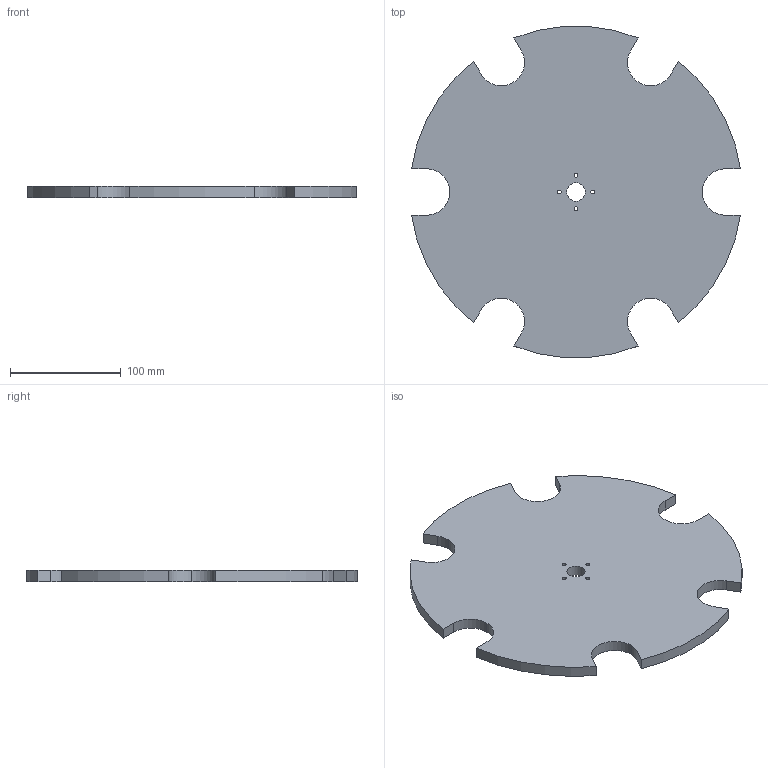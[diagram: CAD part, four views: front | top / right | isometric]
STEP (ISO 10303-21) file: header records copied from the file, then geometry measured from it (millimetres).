
FILE_DESCRIPTION(('Open CASCADE Model'),'2;1');
FILE_NAME('Open CASCADE Shape Model','2026-10-04T02:31:35',('Author'),( 'Open CASCADE'),'Open CASCADE STEP processor 8.0','Open CASCADE 8.0' ,'Unknown');
FILE_SCHEMA(('AUTOMOTIVE_DESIGN { 1 0 10303 214 1 1 1 1 }'));
Length unit declared in the file: millimetre
Products named in the file (1): Open CASCADE STEP translator 8.0 64
Bounding box: 297.05 x 299.12 x 10 mm (x, y, z)
Volume: 626206.1 mm3; surface area: 138667.6 mm2
Topology: 1 solids, 1 shells, 34 faces, 96 edges, 64 vertices
Faces by surface type: cylinder 20, plane 14
Full cylindrical faces by diameter (mm): 3.4 x4, 16.6 x1
Entity records: 2326 total; most frequent: CARTESIAN_POINT 459, DIRECTION 326, ORIENTED_EDGE 192, PCURVE 192, DEFINITIONAL_REPRESENTATION 192, LINE 136, VECTOR 136, EDGE_CURVE 96
